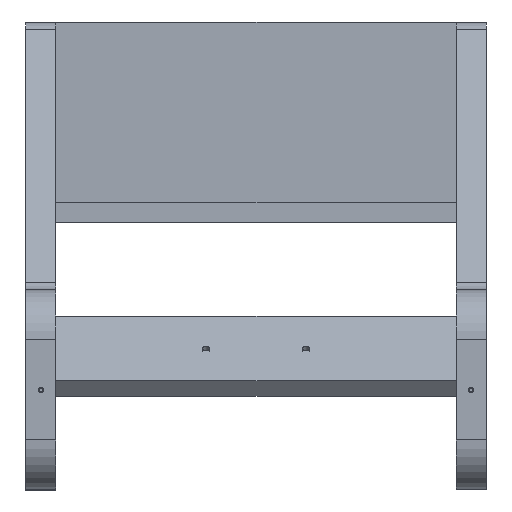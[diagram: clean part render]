
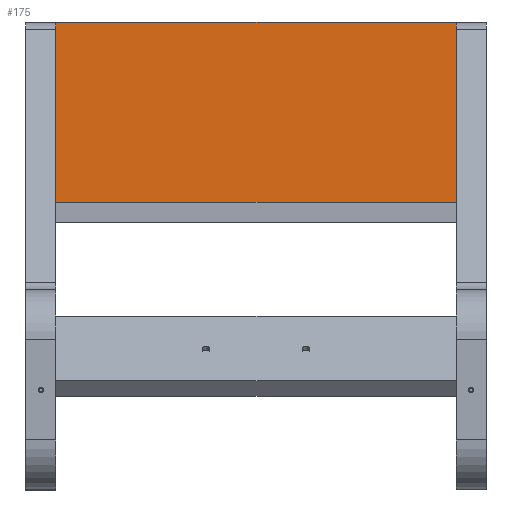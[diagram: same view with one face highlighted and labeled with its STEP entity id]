
A CAD part, left-side view. The second image highlights one B-rep face of the part: STEP entity #175.
In plain terms, the highlighted planar face has unit normal (-1, 0, 0).
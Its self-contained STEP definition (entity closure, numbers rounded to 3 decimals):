
#55=CARTESIAN_POINT('',(-1.881,-400.,267.82));
#56=VERTEX_POINT('',#55);
#63=CARTESIAN_POINT('',(-1.881,-400.,87.82));
#64=VERTEX_POINT('',#63);
#65=CARTESIAN_POINT('',(-1.881,-400.,87.82));
#66=DIRECTION('',(0.0,0.0,1.0));
#67=VECTOR('',#66,1.0);
#68=LINE('',#65,#67);
#69=EDGE_CURVE('',#64,#56,#68,.T.);
#93=CARTESIAN_POINT('',(-1.881,0.,267.82));
#94=VERTEX_POINT('',#93);
#101=CARTESIAN_POINT('',(-1.881,-400.,267.82));
#102=DIRECTION('',(0.0,1.0,0.0));
#103=VECTOR('',#102,1.0);
#104=LINE('',#101,#103);
#105=EDGE_CURVE('',#56,#94,#104,.T.);
#124=CARTESIAN_POINT('',(-1.881,0.,87.82));
#125=VERTEX_POINT('',#124);
#132=CARTESIAN_POINT('',(-1.881,0.,267.82));
#133=DIRECTION('',(0.0,0.0,-1.0));
#134=VECTOR('',#133,1.0);
#135=LINE('',#132,#134);
#136=EDGE_CURVE('',#94,#125,#135,.T.);
#154=CARTESIAN_POINT('',(-1.881,0.,87.82));
#155=DIRECTION('',(0.0,-1.0,0.0));
#156=VECTOR('',#155,1.);
#157=LINE('',#154,#156);
#158=EDGE_CURVE('',#125,#64,#157,.T.);
#164=CARTESIAN_POINT('',(-1.881,-420.,276.82));
#165=DIRECTION('',(1.0,0.0,0.0));
#166=DIRECTION('',(0.0,0.0,-1.0));
#167=AXIS2_PLACEMENT_3D('',#164,#165,#166);
#168=PLANE('',#167);
#169=ORIENTED_EDGE('',*,*,#69,.T.);
#170=ORIENTED_EDGE('',*,*,#105,.T.);
#171=ORIENTED_EDGE('',*,*,#136,.T.);
#172=ORIENTED_EDGE('',*,*,#158,.T.);
#173=EDGE_LOOP('',(#169,#170,#171,#172));
#174=FACE_OUTER_BOUND('',#173,.T.);
#175=ADVANCED_FACE('',(#174),#168,.F.);
